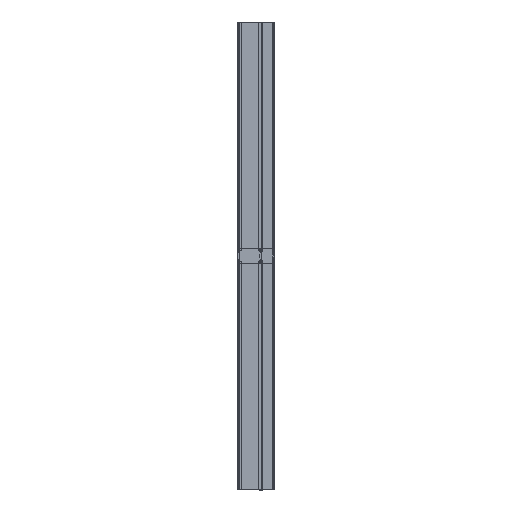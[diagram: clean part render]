
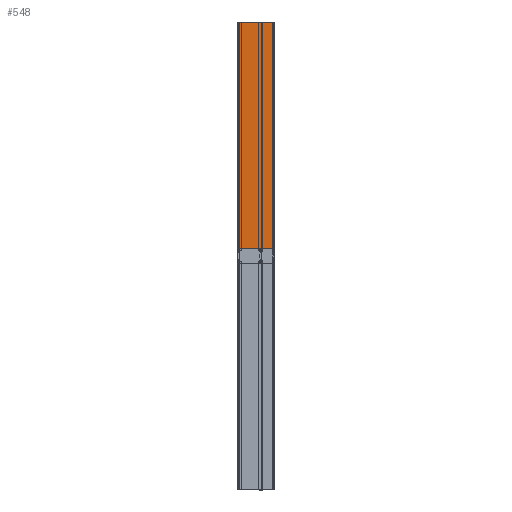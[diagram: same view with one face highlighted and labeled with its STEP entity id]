
A CAD part, left-side view. The second image highlights one B-rep face of the part: STEP entity #548.
In plain terms, the highlighted planar face has unit normal (-1, 0, 0).
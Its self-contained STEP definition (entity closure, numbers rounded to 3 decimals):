
#548=ADVANCED_FACE('',(#1603),#1605,.T.);
#1603=FACE_BOUND('',#1604,.T.);
#1604=EDGE_LOOP('',(#4913,#4914,#4915,#4916));
#1605=PLANE('',#1606);
#1606=AXIS2_PLACEMENT_3D('',#1607,#1608,#1609);
#1607=CARTESIAN_POINT('',(-17.5,4.,-255.5));
#1608=DIRECTION('',(-1.,0.,0.));
#1609=DIRECTION('',(0.,-1.,0.));
#4913=ORIENTED_EDGE('',*,*,#6756,.T.);
#4914=ORIENTED_EDGE('',*,*,#7105,.T.);
#4915=ORIENTED_EDGE('',*,*,#6966,.F.);
#4916=ORIENTED_EDGE('',*,*,#7106,.F.);
#6756=EDGE_CURVE('',#8032,#8030,#8033,.F.);
#6966=EDGE_CURVE('',#8445,#8447,#8448,.T.);
#7105=EDGE_CURVE('',#8030,#8447,#8656,.T.);
#7106=EDGE_CURVE('',#8032,#8445,#8657,.T.);
#8030=VERTEX_POINT('',#10228);
#8032=VERTEX_POINT('',#10233);
#8033=LINE('',#10234,#10235);
#8445=VERTEX_POINT('',#11183);
#8447=VERTEX_POINT('',#11188);
#8448=LINE('',#11189,#11190);
#8656=LINE('',#11718,#11719);
#8657=LINE('',#11721,#11722);
#10228=CARTESIAN_POINT('',(-17.5,-73.75,-238.));
#10233=CARTESIAN_POINT('',(-17.5,4.,-238.));
#10234=CARTESIAN_POINT('',(-17.5,-73.75,-238.));
#10235=VECTOR('',#10236,1.);
#10236=DIRECTION('',(0.,1.,0.));
#11183=CARTESIAN_POINT('',(-17.5,4.,255.5));
#11188=CARTESIAN_POINT('',(-17.5,-73.75,255.5));
#11189=CARTESIAN_POINT('',(-17.5,4.,255.5));
#11190=VECTOR('',#11191,1.);
#11191=DIRECTION('',(0.,-1.,0.));
#11718=CARTESIAN_POINT('',(-17.5,-73.75,-238.));
#11719=VECTOR('',#11720,1.);
#11720=DIRECTION('',(0.,0.,1.));
#11721=CARTESIAN_POINT('',(-17.5,4.,-238.));
#11722=VECTOR('',#11723,1.);
#11723=DIRECTION('',(0.,0.,1.));
